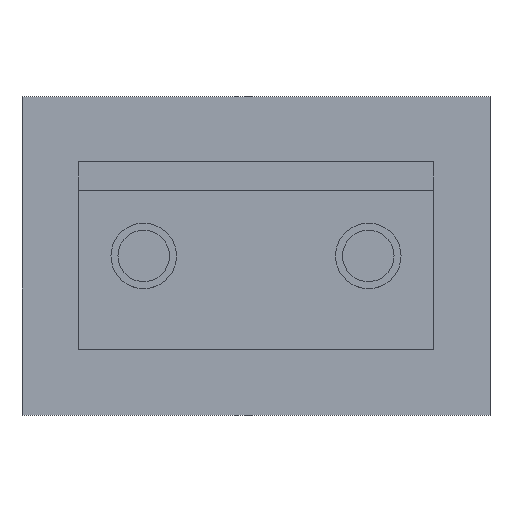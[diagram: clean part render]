
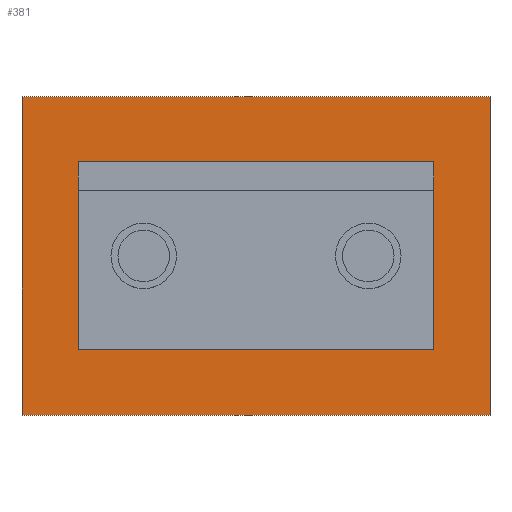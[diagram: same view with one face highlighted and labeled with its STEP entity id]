
A CAD part, top view. The second image highlights one B-rep face of the part: STEP entity #381.
In plain terms, the highlighted planar face has unit normal (0, 0, 1).
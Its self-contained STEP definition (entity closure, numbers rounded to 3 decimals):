
#24 = VERTEX_POINT('',#25);
#25 = CARTESIAN_POINT('',(-25.,17.,3.));
#32 = PLANE('',#33);
#33 = AXIS2_PLACEMENT_3D('',#34,#35,#36);
#34 = CARTESIAN_POINT('',(-25.,17.,0.));
#35 = DIRECTION('',(0.,1.,0.));
#36 = DIRECTION('',(1.,0.,0.));
#44 = PLANE('',#45);
#45 = AXIS2_PLACEMENT_3D('',#46,#47,#48);
#46 = CARTESIAN_POINT('',(-25.,-17.,0.));
#47 = DIRECTION('',(-1.,0.,0.));
#48 = DIRECTION('',(0.,1.,0.));
#56 = EDGE_CURVE('',#24,#57,#59,.T.);
#57 = VERTEX_POINT('',#58);
#58 = CARTESIAN_POINT('',(25.,17.,3.));
#59 = SURFACE_CURVE('',#60,(#64,#71),.PCURVE_S1.);
#60 = LINE('',#61,#62);
#61 = CARTESIAN_POINT('',(-25.,17.,3.));
#62 = VECTOR('',#63,1.);
#63 = DIRECTION('',(1.,0.,0.));
#64 = PCURVE('',#32,#65);
#65 = DEFINITIONAL_REPRESENTATION('',(#66),#70);
#66 = LINE('',#67,#68);
#67 = CARTESIAN_POINT('',(0.,-3.));
#68 = VECTOR('',#69,1.);
#69 = DIRECTION('',(1.,0.));
#70 = ( GEOMETRIC_REPRESENTATION_CONTEXT(2) 
PARAMETRIC_REPRESENTATION_CONTEXT() REPRESENTATION_CONTEXT('2D SPACE',''
  ) );
#71 = PCURVE('',#72,#77);
#72 = PLANE('',#73);
#73 = AXIS2_PLACEMENT_3D('',#74,#75,#76);
#74 = CARTESIAN_POINT('',(0.,0.,3.));
#75 = DIRECTION('',(-0.,-0.,-1.));
#76 = DIRECTION('',(-1.,0.,0.));
#77 = DEFINITIONAL_REPRESENTATION('',(#78),#82);
#78 = LINE('',#79,#80);
#79 = CARTESIAN_POINT('',(25.,17.));
#80 = VECTOR('',#81,1.);
#81 = DIRECTION('',(-1.,0.));
#82 = ( GEOMETRIC_REPRESENTATION_CONTEXT(2) 
PARAMETRIC_REPRESENTATION_CONTEXT() REPRESENTATION_CONTEXT('2D SPACE',''
  ) );
#100 = PLANE('',#101);
#101 = AXIS2_PLACEMENT_3D('',#102,#103,#104);
#102 = CARTESIAN_POINT('',(25.,17.,0.));
#103 = DIRECTION('',(1.,0.,-0.));
#104 = DIRECTION('',(0.,-1.,0.));
#144 = VERTEX_POINT('',#145);
#145 = CARTESIAN_POINT('',(-25.,-17.,3.));
#159 = PLANE('',#160);
#160 = AXIS2_PLACEMENT_3D('',#161,#162,#163);
#161 = CARTESIAN_POINT('',(25.,-17.,0.));
#162 = DIRECTION('',(0.,-1.,0.));
#163 = DIRECTION('',(-1.,0.,0.));
#171 = EDGE_CURVE('',#144,#24,#172,.T.);
#172 = SURFACE_CURVE('',#173,(#177,#184),.PCURVE_S1.);
#173 = LINE('',#174,#175);
#174 = CARTESIAN_POINT('',(-25.,-17.,3.));
#175 = VECTOR('',#176,1.);
#176 = DIRECTION('',(0.,1.,0.));
#177 = PCURVE('',#44,#178);
#178 = DEFINITIONAL_REPRESENTATION('',(#179),#183);
#179 = LINE('',#180,#181);
#180 = CARTESIAN_POINT('',(0.,-3.));
#181 = VECTOR('',#182,1.);
#182 = DIRECTION('',(1.,0.));
#183 = ( GEOMETRIC_REPRESENTATION_CONTEXT(2) 
PARAMETRIC_REPRESENTATION_CONTEXT() REPRESENTATION_CONTEXT('2D SPACE',''
  ) );
#184 = PCURVE('',#72,#185);
#185 = DEFINITIONAL_REPRESENTATION('',(#186),#190);
#186 = LINE('',#187,#188);
#187 = CARTESIAN_POINT('',(25.,-17.));
#188 = VECTOR('',#189,1.);
#189 = DIRECTION('',(0.,1.));
#190 = ( GEOMETRIC_REPRESENTATION_CONTEXT(2) 
PARAMETRIC_REPRESENTATION_CONTEXT() REPRESENTATION_CONTEXT('2D SPACE',''
  ) );
#218 = EDGE_CURVE('',#57,#219,#221,.T.);
#219 = VERTEX_POINT('',#220);
#220 = CARTESIAN_POINT('',(25.,-17.,3.));
#221 = SURFACE_CURVE('',#222,(#226,#233),.PCURVE_S1.);
#222 = LINE('',#223,#224);
#223 = CARTESIAN_POINT('',(25.,17.,3.));
#224 = VECTOR('',#225,1.);
#225 = DIRECTION('',(0.,-1.,0.));
#226 = PCURVE('',#100,#227);
#227 = DEFINITIONAL_REPRESENTATION('',(#228),#232);
#228 = LINE('',#229,#230);
#229 = CARTESIAN_POINT('',(0.,-3.));
#230 = VECTOR('',#231,1.);
#231 = DIRECTION('',(1.,0.));
#232 = ( GEOMETRIC_REPRESENTATION_CONTEXT(2) 
PARAMETRIC_REPRESENTATION_CONTEXT() REPRESENTATION_CONTEXT('2D SPACE',''
  ) );
#233 = PCURVE('',#72,#234);
#234 = DEFINITIONAL_REPRESENTATION('',(#235),#239);
#235 = LINE('',#236,#237);
#236 = CARTESIAN_POINT('',(-25.,17.));
#237 = VECTOR('',#238,1.);
#238 = DIRECTION('',(0.,-1.));
#239 = ( GEOMETRIC_REPRESENTATION_CONTEXT(2) 
PARAMETRIC_REPRESENTATION_CONTEXT() REPRESENTATION_CONTEXT('2D SPACE',''
  ) );
#335 = CYLINDRICAL_SURFACE('',#336,1.6);
#336 = AXIS2_PLACEMENT_3D('',#337,#338,#339);
#337 = CARTESIAN_POINT('',(12.,0.,-0.5));
#338 = DIRECTION('',(0.,0.,1.));
#339 = DIRECTION('',(1.,0.,-0.));
#370 = CYLINDRICAL_SURFACE('',#371,1.6);
#371 = AXIS2_PLACEMENT_3D('',#372,#373,#374);
#372 = CARTESIAN_POINT('',(-12.,0.,-0.5));
#373 = DIRECTION('',(0.,0.,1.));
#374 = DIRECTION('',(1.,0.,-0.));
#381 = ADVANCED_FACE('',(#382,#408,#438),#72,.F.);
#382 = FACE_BOUND('',#383,.F.);
#383 = EDGE_LOOP('',(#384,#385,#386,#407));
#384 = ORIENTED_EDGE('',*,*,#56,.T.);
#385 = ORIENTED_EDGE('',*,*,#218,.T.);
#386 = ORIENTED_EDGE('',*,*,#387,.T.);
#387 = EDGE_CURVE('',#219,#144,#388,.T.);
#388 = SURFACE_CURVE('',#389,(#393,#400),.PCURVE_S1.);
#389 = LINE('',#390,#391);
#390 = CARTESIAN_POINT('',(25.,-17.,3.));
#391 = VECTOR('',#392,1.);
#392 = DIRECTION('',(-1.,0.,0.));
#393 = PCURVE('',#72,#394);
#394 = DEFINITIONAL_REPRESENTATION('',(#395),#399);
#395 = LINE('',#396,#397);
#396 = CARTESIAN_POINT('',(-25.,-17.));
#397 = VECTOR('',#398,1.);
#398 = DIRECTION('',(1.,0.));
#399 = ( GEOMETRIC_REPRESENTATION_CONTEXT(2) 
PARAMETRIC_REPRESENTATION_CONTEXT() REPRESENTATION_CONTEXT('2D SPACE',''
  ) );
#400 = PCURVE('',#159,#401);
#401 = DEFINITIONAL_REPRESENTATION('',(#402),#406);
#402 = LINE('',#403,#404);
#403 = CARTESIAN_POINT('',(0.,-3.));
#404 = VECTOR('',#405,1.);
#405 = DIRECTION('',(1.,0.));
#406 = ( GEOMETRIC_REPRESENTATION_CONTEXT(2) 
PARAMETRIC_REPRESENTATION_CONTEXT() REPRESENTATION_CONTEXT('2D SPACE',''
  ) );
#407 = ORIENTED_EDGE('',*,*,#171,.T.);
#408 = FACE_BOUND('',#409,.F.);
#409 = EDGE_LOOP('',(#410));
#410 = ORIENTED_EDGE('',*,*,#411,.T.);
#411 = EDGE_CURVE('',#412,#412,#414,.T.);
#412 = VERTEX_POINT('',#413);
#413 = CARTESIAN_POINT('',(13.6,0.,3.));
#414 = SURFACE_CURVE('',#415,(#420,#431),.PCURVE_S1.);
#415 = CIRCLE('',#416,1.6);
#416 = AXIS2_PLACEMENT_3D('',#417,#418,#419);
#417 = CARTESIAN_POINT('',(12.,0.,3.));
#418 = DIRECTION('',(0.,0.,1.));
#419 = DIRECTION('',(1.,0.,-0.));
#420 = PCURVE('',#72,#421);
#421 = DEFINITIONAL_REPRESENTATION('',(#422),#430);
#422 = ( BOUNDED_CURVE() B_SPLINE_CURVE(2,(#423,#424,#425,#426,#427,#428
,#429),.UNSPECIFIED.,.T.,.F.) B_SPLINE_CURVE_WITH_KNOTS((1,2,2,2,2,1),(
    -2.094,0.,2.094,4.189,6.283,
8.378),.UNSPECIFIED.) CURVE() GEOMETRIC_REPRESENTATION_ITEM() 
RATIONAL_B_SPLINE_CURVE((1.,0.5,1.,0.5,1.,0.5,1.)) REPRESENTATION_ITEM(
  '') );
#423 = CARTESIAN_POINT('',(-13.6,0.));
#424 = CARTESIAN_POINT('',(-13.6,2.771));
#425 = CARTESIAN_POINT('',(-11.2,1.386));
#426 = CARTESIAN_POINT('',(-8.8,0.));
#427 = CARTESIAN_POINT('',(-11.2,-1.386));
#428 = CARTESIAN_POINT('',(-13.6,-2.771));
#429 = CARTESIAN_POINT('',(-13.6,0.));
#430 = ( GEOMETRIC_REPRESENTATION_CONTEXT(2) 
PARAMETRIC_REPRESENTATION_CONTEXT() REPRESENTATION_CONTEXT('2D SPACE',''
  ) );
#431 = PCURVE('',#335,#432);
#432 = DEFINITIONAL_REPRESENTATION('',(#433),#437);
#433 = LINE('',#434,#435);
#434 = CARTESIAN_POINT('',(0.,3.5));
#435 = VECTOR('',#436,1.);
#436 = DIRECTION('',(1.,0.));
#437 = ( GEOMETRIC_REPRESENTATION_CONTEXT(2) 
PARAMETRIC_REPRESENTATION_CONTEXT() REPRESENTATION_CONTEXT('2D SPACE',''
  ) );
#438 = FACE_BOUND('',#439,.F.);
#439 = EDGE_LOOP('',(#440));
#440 = ORIENTED_EDGE('',*,*,#441,.T.);
#441 = EDGE_CURVE('',#442,#442,#444,.T.);
#442 = VERTEX_POINT('',#443);
#443 = CARTESIAN_POINT('',(-10.4,0.,3.));
#444 = SURFACE_CURVE('',#445,(#450,#461),.PCURVE_S1.);
#445 = CIRCLE('',#446,1.6);
#446 = AXIS2_PLACEMENT_3D('',#447,#448,#449);
#447 = CARTESIAN_POINT('',(-12.,0.,3.));
#448 = DIRECTION('',(0.,0.,1.));
#449 = DIRECTION('',(1.,0.,-0.));
#450 = PCURVE('',#72,#451);
#451 = DEFINITIONAL_REPRESENTATION('',(#452),#460);
#452 = ( BOUNDED_CURVE() B_SPLINE_CURVE(2,(#453,#454,#455,#456,#457,#458
,#459),.UNSPECIFIED.,.T.,.F.) B_SPLINE_CURVE_WITH_KNOTS((1,2,2,2,2,1),(
    -2.094,0.,2.094,4.189,6.283,
8.378),.UNSPECIFIED.) CURVE() GEOMETRIC_REPRESENTATION_ITEM() 
RATIONAL_B_SPLINE_CURVE((1.,0.5,1.,0.5,1.,0.5,1.)) REPRESENTATION_ITEM(
  '') );
#453 = CARTESIAN_POINT('',(10.4,0.));
#454 = CARTESIAN_POINT('',(10.4,2.771));
#455 = CARTESIAN_POINT('',(12.8,1.386));
#456 = CARTESIAN_POINT('',(15.2,0.));
#457 = CARTESIAN_POINT('',(12.8,-1.386));
#458 = CARTESIAN_POINT('',(10.4,-2.771));
#459 = CARTESIAN_POINT('',(10.4,0.));
#460 = ( GEOMETRIC_REPRESENTATION_CONTEXT(2) 
PARAMETRIC_REPRESENTATION_CONTEXT() REPRESENTATION_CONTEXT('2D SPACE',''
  ) );
#461 = PCURVE('',#370,#462);
#462 = DEFINITIONAL_REPRESENTATION('',(#463),#467);
#463 = LINE('',#464,#465);
#464 = CARTESIAN_POINT('',(0.,3.5));
#465 = VECTOR('',#466,1.);
#466 = DIRECTION('',(1.,0.));
#467 = ( GEOMETRIC_REPRESENTATION_CONTEXT(2) 
PARAMETRIC_REPRESENTATION_CONTEXT() REPRESENTATION_CONTEXT('2D SPACE',''
  ) );
